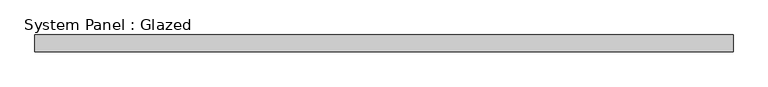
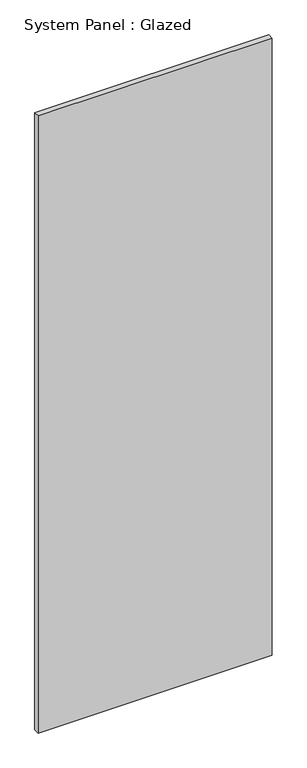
"""IFC4 building model written with IfcOpenShell, lengths in millimetres: plate geometry, System Panel : Glazed."""

import ifcopenshell
import ifcopenshell.guid

model = None  # the IFC model being written
_history = None  # IfcOwnerHistory: only IFC2X3 demands one
_inside = {}  # id of a spatial element -> (the spatial element, [elements in it])
_under = {}  # id of a project, library or spatial element -> (it, [spatial elements below it])
_declared = {}  # id of a project -> (the project, [libraries it declares])
_typed = {}  # id of a type object -> (the type object, [elements of that type])
_made_of = {}  # id of a material, layer set ... -> (it, [elements and type objects made of it])


def new_model(schema):
    """Start an empty IFC model of exactly this schema.

    Asked for "IFC4X3", IfcOpenShell would pick the latest addendum, in which some entities
    have other attributes; the version numbers below select the first issue.
    IFC2X3 requires an IfcOwnerHistory on every rooted entity: one is made here for all.
    """
    global model, _history
    if schema == "IFC4X3":
        model = ifcopenshell.file(schema_version=(4, 3, 0, 0))
    else:
        model = ifcopenshell.file(schema=schema)
    _inside.clear()
    _under.clear()
    _declared.clear()
    _typed.clear()
    _made_of.clear()
    _history = None
    if model.schema == "IFC2X3":
        org = make("IfcOrganization", Name="unknown")
        user = make(
            "IfcPersonAndOrganization",
            ThePerson=make("IfcPerson", FamilyName="unknown"),
            TheOrganization=org,
        )
        app = make(
            "IfcApplication",
            ApplicationDeveloper=org,
            Version="unknown",
            ApplicationFullName="unknown",
            ApplicationIdentifier="unknown",
        )
        _history = make(
            "IfcOwnerHistory",
            OwningUser=user,
            OwningApplication=app,
            ChangeAction="ADDED",
            CreationDate=0,
        )
    return model


def make(cls, **values):
    """One entity of the class cls with the attributes given. An attribute that is None is left unset."""
    return model.create_entity(
        cls, **{name: value for name, value in values.items() if value is not None}
    )


def rooted(cls, **values):
    """An entity with a GlobalId (a new one), such as an element, a storey or a relation."""
    return make(cls, GlobalId=ifcopenshell.guid.new(), OwnerHistory=_history, **values)


def si_unit(unit_type, name, prefix=None):
    """IfcSIUnit, for example si_unit("LENGTHUNIT", "METRE", prefix="MILLI")."""
    return make("IfcSIUnit", UnitType=unit_type, Prefix=prefix, Name=name)


def assignment(units):
    """IfcUnitAssignment: the units of a project."""
    return None if units is None else make("IfcUnitAssignment", Units=units)


def point(xyz):
    """IfcCartesianPoint."""
    return None if xyz is None else make("IfcCartesianPoint", Coordinates=xyz)


def direction(xyz):
    """IfcDirection."""
    return None if xyz is None else make("IfcDirection", DirectionRatios=xyz)


def frame(location, z_axis=None, x_axis=None):
    """IfcAxis2Placement3D, a coordinate frame: its origin and axes. An axis left out is left unset."""
    return make(
        "IfcAxis2Placement3D",
        Location=point(location),
        Axis=direction(z_axis),
        RefDirection=direction(x_axis),
    )


def origin():
    """The frame at (0, 0, 0) with its axes left unset."""
    return frame((0.0, 0.0, 0.0))


def origin_with_axes():
    """The frame at (0, 0, 0) with the z axis (0, 0, 1) and the x axis (1, 0, 0) written out."""
    return frame((0.0, 0.0, 0.0), z_axis=(0.0, 0.0, 1.0), x_axis=(1.0, 0.0, 0.0))


def place(relative_to, where):
    """IfcLocalPlacement: puts the frame where relative to a parent placement (None: the world)."""
    return make(
        "IfcLocalPlacement", PlacementRelTo=relative_to, RelativePlacement=where
    )


def context(
    kind, dimensions, precision=None, world=None, true_north=None, identifier=None
):
    """IfcGeometricRepresentationContext, for example the 3D "Model" context."""
    return make(
        "IfcGeometricRepresentationContext",
        ContextIdentifier=identifier,
        ContextType=kind,
        CoordinateSpaceDimension=dimensions,
        Precision=precision,
        WorldCoordinateSystem=world,
        TrueNorth=true_north,
    )


def project(units=None, contexts=None):
    """IfcProject with its units and contexts."""
    return rooted(
        "IfcProject",
        Name="project",
        RepresentationContexts=contexts,
        UnitsInContext=assignment(units),
    )


def spatial(cls, under=None, at=None, **own):
    """A site, building, storey or space (cls), placed at a placement, below another one or the project."""
    s = rooted(cls, ObjectPlacement=at, **own)
    if under is not None:
        _under.setdefault(under.id(), (under, []))[1].append(s)
    return s


def polyline(points):
    """IfcPolyline through the points."""
    return make("IfcPolyline", Points=[point(p) for p in points])


def outline(outer, holes=None, kind="AREA"):
    """IfcArbitraryClosedProfileDef: a profile drawn as a closed curve; with holes, ...WithVoids."""
    if holes is None:
        return make("IfcArbitraryClosedProfileDef", ProfileType=kind, OuterCurve=outer)
    return make(
        "IfcArbitraryProfileDefWithVoids",
        ProfileType=kind,
        OuterCurve=outer,
        InnerCurves=holes,
    )


def extrude(swept, where, along, depth):
    """IfcExtrudedAreaSolid: the profile swept, set in the frame where, extruded along a direction by depth."""
    return make(
        "IfcExtrudedAreaSolid",
        SweptArea=swept,
        Position=where,
        ExtrudedDirection=direction(along),
        Depth=depth,
    )


def shape(context_of_items, identifier, shape_type, items):
    """IfcShapeRepresentation: the items that make up one representation, for example the "Body"."""
    return make(
        "IfcShapeRepresentation",
        ContextOfItems=context_of_items,
        RepresentationIdentifier=identifier,
        RepresentationType=shape_type,
        Items=items,
    )


def source(mapping_origin, context_of_items, identifier, shape_type, items):
    """IfcRepresentationMap: a shape defined once, which mapped items show again and again."""
    return make(
        "IfcRepresentationMap",
        MappingOrigin=mapping_origin,
        MappedRepresentation=shape(context_of_items, identifier, shape_type, items),
    )


def transform(
    local_origin,
    x_axis=None,
    y_axis=None,
    z_axis=None,
    scale=None,
    scale2=None,
    scale3=None,
    uniform=True,
):
    """IfcCartesianTransformationOperator3D, or its non-uniform kind. x_axis, y_axis, z_axis: its Axis1, 2, 3."""
    if uniform:
        return make(
            "IfcCartesianTransformationOperator3D",
            Axis1=direction(x_axis),
            Axis2=direction(y_axis),
            LocalOrigin=point(local_origin),
            Scale=scale,
            Axis3=direction(z_axis),
        )
    return make(
        "IfcCartesianTransformationOperator3DnonUniform",
        Axis1=direction(x_axis),
        Axis2=direction(y_axis),
        LocalOrigin=point(local_origin),
        Scale=scale,
        Axis3=direction(z_axis),
        Scale2=scale2,
        Scale3=scale3,
    )


def mapped(mapping_source, mapping_target):
    """IfcMappedItem: shows the shape of a source again, moved by a transform."""
    return make(
        "IfcMappedItem", MappingSource=mapping_source, MappingTarget=mapping_target
    )


def made_of(thing, what):
    """Note that an element or type object is made of a material, layer set ...; save() writes the relation."""
    if what is not None:
        _made_of.setdefault(what.id(), (what, []))[1].append(thing)
    return thing


def element(
    cls,
    number,
    at=None,
    inside=None,
    cuts=None,
    type_object=None,
    material=None,
    context=None,
    identifier="Body",
    shape_type=None,
    held_by="IfcProductDefinitionShape",
    body=None,
    shapes=None,
    **own,
):
    """One element of the class cls, such as IfcWall. Its Tag is "e" and its number.

    at: its placement. inside: the storey or other place that contains it. cuts: it is an
    opening in that element (IfcRelVoidsElement). A single representation is given by context,
    identifier, shape_type and body (its items); several are given by shapes. held_by: the class
    of the entity that holds the representations. save() writes the other relations.
    """
    e = rooted(cls, Tag="e%d" % number, ObjectPlacement=at, **own)
    if body is not None:
        shapes = [shape(context, identifier, shape_type, body)]
    if shapes is not None:
        e.Representation = make(held_by, Representations=shapes)
    if inside is not None:
        _inside.setdefault(inside.id(), (inside, []))[1].append(e)
    if cuts is not None:
        rooted(
            "IfcRelVoidsElement", RelatingBuildingElement=cuts, RelatedOpeningElement=e
        )
    if type_object is not None:
        _typed.setdefault(type_object.id(), (type_object, []))[1].append(e)
    return made_of(e, material)


def aggregate(whole, parts):
    """IfcRelAggregates: a whole, such as a stair, and the parts it consists of."""
    return rooted("IfcRelAggregates", RelatingObject=whole, RelatedObjects=parts)


def save(model, path):
    """Write the relations noted so far, then the file.

    IfcRelAggregates (storeys below a building ...), IfcRelContainedInSpatialStructure (elements
    in a storey), IfcRelDefinesByType, IfcRelAssociatesMaterial and IfcRelDeclares: one each for
    every whole, place, type object, material and project.
    """
    for whole, parts in _under.values():
        aggregate(whole, parts)
    for where, things in _inside.values():
        rooted(
            "IfcRelContainedInSpatialStructure",
            RelatedElements=things,
            RelatingStructure=where,
        )
    for kind, things in _typed.values():
        rooted("IfcRelDefinesByType", RelatedObjects=things, RelatingType=kind)
    for what, things in _made_of.values():
        rooted("IfcRelAssociatesMaterial", RelatedObjects=things, RelatingMaterial=what)
    for by, libraries in _declared.values():
        rooted("IfcRelDeclares", RelatingContext=by, RelatedDefinitions=libraries)
    model.write(path)


def system_panel_glazed_a5e8ce8b(model_context):
    return source(origin(), model_context, "Body", "SweptSolid", [
        extrude(outline(polyline([(525.0, 24.5), (-525.0, 24.5), (-525.0, 49.5), (525.0, 49.5), (525.0, 24.5)])), origin_with_axes(), (0.0, 0.0, 1.0), 2925.0),
    ])


if __name__ == "__main__":
    model = new_model("IFC4")
    model_context = context("Model", 3, world=origin())
    ifc_project = project(units=[si_unit("LENGTHUNIT", "METRE", prefix="MILLI")], contexts=[model_context])
    site = spatial("IfcSite", under=ifc_project)
    building = spatial("IfcBuilding", under=site)
    placement = place(None, origin())
    system_panel_glazed_shape = system_panel_glazed_a5e8ce8b(model_context)
    element("IfcPlate", 1, ObjectType="System Panel : Glazed", at=placement, inside=building, context=model_context, shape_type="MappedRepresentation", body=[
        mapped(system_panel_glazed_shape, transform((0.0, 0.0, 0.0), x_axis=(1.0, 0.0, 0.0), y_axis=(0.0, 1.0, 0.0), z_axis=(0.0, 0.0, 1.0))),
    ])
    save(model, "model.ifc")
